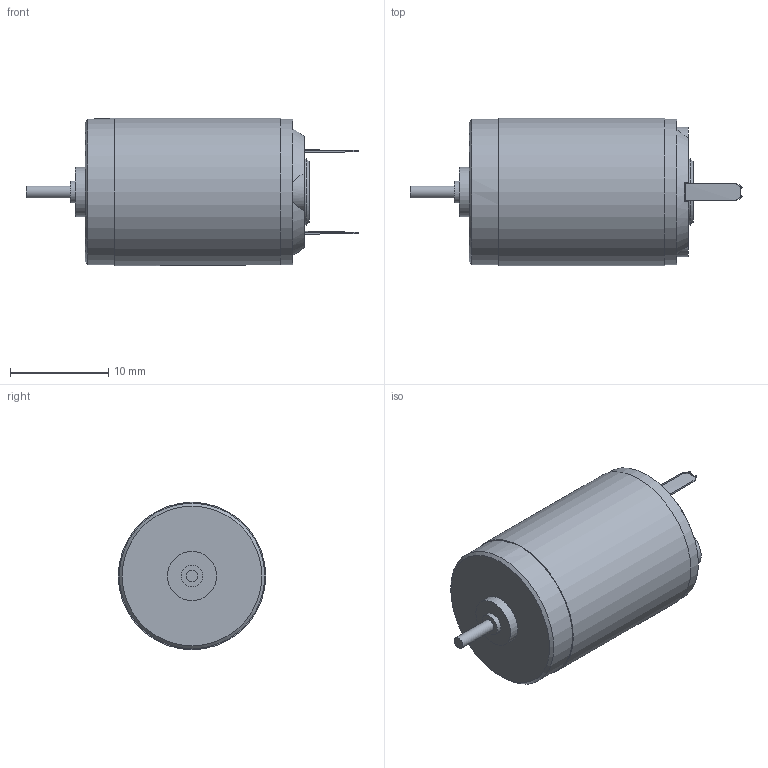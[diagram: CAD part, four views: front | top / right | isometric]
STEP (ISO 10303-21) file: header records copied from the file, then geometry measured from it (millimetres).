
FILE_DESCRIPTION(('Bauteilbeschreibung','HiCAD-Model','HiCAD-STEP-TRANSLATION','Bauteilbeschreibung'),'2;1');
FILE_NAME('C:/1-STEP-DATEI/05_072.STP','2005-02-01T14:28:26+00:00',('Konstrukteur'),('Konstrukteur Firma GmbH'),'HiCAD2 V1102 STEP 20.9.2001','HiCAD2 V1102','confidential');
FILE_SCHEMA(('AUTOMOTIVE_DESIGN { 1 2 10303 214 0 1 1 1 }'));
Length unit declared in the file: millimetre
Products named in the file (2): MOTOR; MOTOR0
Assembly tree (1 placements, depth 2):
  MOTOR
    MOTOR0
Bounding box: 33.75 x 15 x 15 mm (x, y, z)
Surface area: 1472.7 mm2 (no closed solid volume)
Topology: 0 solids, 1 shells, 96 faces, 237 edges, 125 vertices
Faces by surface type: plane 72, cylinder 19, cone 5
Full cylindrical faces by diameter (mm): 1.2 x1, 2.2 x1, 5 x1, 6.8 x1, 14.8 x2, 15 x1
Entity records: 4656 total; most frequent: CARTESIAN_POINT 521, DIRECTION 464, ORIENTED_EDGE 457, COLOUR_RGB 322, PRESENTATION_STYLE_ASSIGNMENT 322, OVER_RIDING_STYLED_ITEM 321, CURVE_STYLE 230, DRAUGHTING_PRE_DEFINED_CURVE_FONT 230
